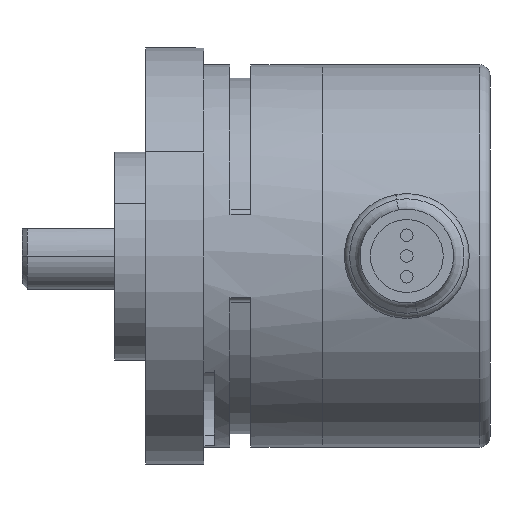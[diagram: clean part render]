
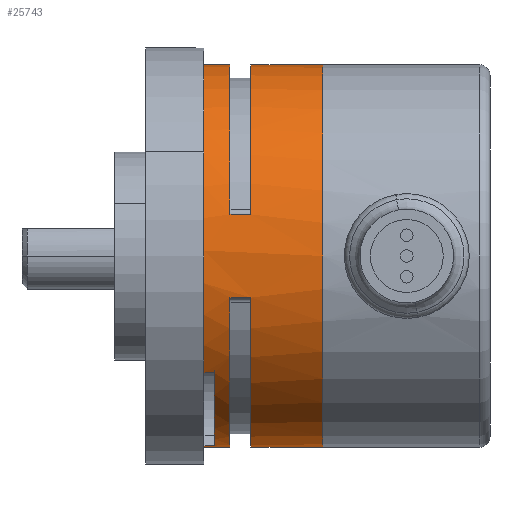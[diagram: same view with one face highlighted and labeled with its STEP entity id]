
A CAD part, front view. The second image highlights one B-rep face of the part: STEP entity #25743.
In plain terms, the highlighted cylindrical face has radius 18.4 mm (diameter 36.8 mm), a partial arc.
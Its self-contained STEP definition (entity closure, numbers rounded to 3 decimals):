
#157 = LINE ( 'NONE', #269, #268 ) ;
#259 = CARTESIAN_POINT ( 'NONE',  ( -35.711, 5.115, -18.4 ) ) ;
#267 = DIRECTION ( 'NONE',  ( -1., 0., 0. ) ) ;
#268 = VECTOR ( 'NONE', #267, 1000. ) ;
#269 = CARTESIAN_POINT ( 'NONE',  ( -52.111, 5.115, -18.4 ) ) ;
#2371 = DIRECTION ( 'NONE',  ( 0., 0., 1. ) ) ;
#2373 = DIRECTION ( 'NONE',  ( -1., 0., 0. ) ) ;
#2375 = CARTESIAN_POINT ( 'NONE',  ( -47.111, 5.115, 0. ) ) ;
#2377 = AXIS2_PLACEMENT_3D ( 'NONE', #2375, #2373, #2371 ) ;
#2379 = CIRCLE ( 'NONE', #2377, 18.4 ) ;
#2398 = CARTESIAN_POINT ( 'NONE',  ( -47.111, -9.456, -11.237 ) ) ;
#2899 = CARTESIAN_POINT ( 'NONE',  ( -47.111, 2.669, -18.237 ) ) ;
#3036 = FACE_OUTER_BOUND ( 'NONE', #25779, .T. ) ;
#3039 = DIRECTION ( 'NONE',  ( -1., 0., 0. ) ) ;
#3040 = VECTOR ( 'NONE', #3039, 1000. ) ;
#3043 = CARTESIAN_POINT ( 'NONE',  ( -46.111, -9.456, -11.237 ) ) ;
#3044 = LINE ( 'NONE', #3043, #3040 ) ;
#3048 = DIRECTION ( 'NONE',  ( 0., 0., 1. ) ) ;
#3049 = DIRECTION ( 'NONE',  ( -1., 0., 0. ) ) ;
#3050 = CARTESIAN_POINT ( 'NONE',  ( -46.111, 5.115, 0. ) ) ;
#3051 = AXIS2_PLACEMENT_3D ( 'NONE', #3050, #3049, #3048 ) ;
#3053 = CIRCLE ( 'NONE', #3051, 18.4 ) ;
#3060 = DIRECTION ( 'NONE',  ( 0., 0., 1. ) ) ;
#3061 = DIRECTION ( 'NONE',  ( -1., 0., 0. ) ) ;
#3062 = CARTESIAN_POINT ( 'NONE',  ( -47.111, 5.115, 0. ) ) ;
#3063 = AXIS2_PLACEMENT_3D ( 'NONE', #3062, #3061, #3060 ) ;
#3065 = CIRCLE ( 'NONE', #3063, 18.4 ) ;
#3080 = DIRECTION ( 'NONE',  ( 0., 0., -1. ) ) ;
#3081 = DIRECTION ( 'NONE',  ( 1., 0., 0. ) ) ;
#3082 = CARTESIAN_POINT ( 'NONE',  ( -44.611, 5.115, 0. ) ) ;
#3083 = AXIS2_PLACEMENT_3D ( 'NONE', #3082, #3081, #3080 ) ;
#3084 = CIRCLE ( 'NONE', #3083, 18.4 ) ;
#3085 = CARTESIAN_POINT ( 'NONE',  ( -35.711, 5.115, 0. ) ) ;
#3087 = CARTESIAN_POINT ( 'NONE',  ( -42.611, -12.845, 4. ) ) ;
#3089 = CARTESIAN_POINT ( 'NONE',  ( -44.611, -12.845, 4. ) ) ;
#3091 = DIRECTION ( 'NONE',  ( 0., 0., -1. ) ) ;
#3093 = DIRECTION ( 'NONE',  ( 1., 0., 0. ) ) ;
#3095 = CARTESIAN_POINT ( 'NONE',  ( -42.611, 5.115, 0. ) ) ;
#3096 = AXIS2_PLACEMENT_3D ( 'NONE', #3095, #3093, #3091 ) ;
#3099 = DIRECTION ( 'NONE',  ( 0., 0., 1. ) ) ;
#3101 = DIRECTION ( 'NONE',  ( -1., 0., 0. ) ) ;
#3103 = AXIS2_PLACEMENT_3D ( 'NONE', #3108, #3101, #3099 ) ;
#3105 = CYLINDRICAL_SURFACE ( 'NONE', #3103, 18.4 ) ;
#3106 = CIRCLE ( 'NONE', #3096, 18.4 ) ;
#3108 = CARTESIAN_POINT ( 'NONE',  ( -52.111, 5.115, 0. ) ) ;
#3153 = DIRECTION ( 'NONE',  ( -1., 0., 0. ) ) ;
#3155 = VECTOR ( 'NONE', #3153, 1000. ) ;
#3157 = CARTESIAN_POINT ( 'NONE',  ( -42.611, -12.845, 4. ) ) ;
#3159 = LINE ( 'NONE', #3157, #3155 ) ;
#3167 = CARTESIAN_POINT ( 'NONE',  ( -46.111, -9.456, -11.237 ) ) ;
#3169 = CARTESIAN_POINT ( 'NONE',  ( -46.111, 2.669, -18.237 ) ) ;
#3171 = DIRECTION ( 'NONE',  ( 0., 0., 1. ) ) ;
#3173 = DIRECTION ( 'NONE',  ( -1., 0., 0. ) ) ;
#3175 = AXIS2_PLACEMENT_3D ( 'NONE', #3085, #3173, #3171 ) ;
#3177 = CIRCLE ( 'NONE', #3175, 18.4 ) ;
#3327 = CARTESIAN_POINT ( 'NONE',  ( -44.611, 5.115, -18.4 ) ) ;
#3838 = CARTESIAN_POINT ( 'NONE',  ( -35.711, 5.115, 18.4 ) ) ;
#3873 = CARTESIAN_POINT ( 'NONE',  ( -47.111, 5.115, -18.4 ) ) ;
#3874 = DIRECTION ( 'NONE',  ( -1., 0., 0. ) ) ;
#3875 = VECTOR ( 'NONE', #3874, 1000. ) ;
#3876 = CARTESIAN_POINT ( 'NONE',  ( -52.111, 5.115, -18.4 ) ) ;
#3877 = LINE ( 'NONE', #3876, #3875 ) ;
#3896 = CARTESIAN_POINT ( 'NONE',  ( -44.611, 5.115, 18.4 ) ) ;
#3897 = DIRECTION ( 'NONE',  ( -1., 0., 0. ) ) ;
#3898 = VECTOR ( 'NONE', #3897, 1000. ) ;
#3899 = CARTESIAN_POINT ( 'NONE',  ( -52.111, 5.115, 18.4 ) ) ;
#3900 = LINE ( 'NONE', #3899, #3898 ) ;
#3901 = CARTESIAN_POINT ( 'NONE',  ( -47.111, 5.115, 18.4 ) ) ;
#4483 = VERTEX_POINT ( 'NONE', #25794 ) ;
#4522 = EDGE_CURVE ( 'NONE', #19576, #4483, #25793, .T. ) ;
#5374 = EDGE_CURVE ( 'NONE', #5379, #22262, #157, .T. ) ;
#5379 = VERTEX_POINT ( 'NONE', #259 ) ;
#9497 = CARTESIAN_POINT ( 'NONE',  ( -44.611, -12.845, -4. ) ) ;
#9498 = DIRECTION ( 'NONE',  ( 0., 0., -1. ) ) ;
#9499 = DIRECTION ( 'NONE',  ( 1., 0., 0. ) ) ;
#9500 = CARTESIAN_POINT ( 'NONE',  ( -44.611, 5.115, 0. ) ) ;
#9501 = AXIS2_PLACEMENT_3D ( 'NONE', #9500, #9499, #9498 ) ;
#9502 = CIRCLE ( 'NONE', #9501, 18.4 ) ;
#9530 = DIRECTION ( 'NONE',  ( -1., 0., 0. ) ) ;
#9531 = VECTOR ( 'NONE', #9530, 1000. ) ;
#9532 = CARTESIAN_POINT ( 'NONE',  ( -46.111, 2.669, -18.237 ) ) ;
#9533 = LINE ( 'NONE', #9532, #9531 ) ;
#13004 = CARTESIAN_POINT ( 'NONE',  ( -42.611, 5.115, -18.4 ) ) ;
#18985 = DIRECTION ( 'NONE',  ( 0., 0., -1. ) ) ;
#18986 = DIRECTION ( 'NONE',  ( 1., 0., 0. ) ) ;
#18987 = AXIS2_PLACEMENT_3D ( 'NONE', #18999, #18986, #18985 ) ;
#18996 = CIRCLE ( 'NONE', #18987, 18.4 ) ;
#18999 = CARTESIAN_POINT ( 'NONE',  ( -42.611, 5.115, 0. ) ) ;
#19362 = VERTEX_POINT ( 'NONE', #3327 ) ;
#19576 = VERTEX_POINT ( 'NONE', #3838 ) ;
#19583 = EDGE_CURVE ( 'NONE', #19362, #19584, #3877, .T. ) ;
#19584 = VERTEX_POINT ( 'NONE', #3873 ) ;
#19598 = VERTEX_POINT ( 'NONE', #3901 ) ;
#19600 = EDGE_CURVE ( 'NONE', #19601, #19598, #3900, .T. ) ;
#19601 = VERTEX_POINT ( 'NONE', #3896 ) ;
#21297 = ORIENTED_EDGE ( 'NONE', *, *, #21298, .F. ) ;
#21298 = EDGE_CURVE ( 'NONE', #21299, #19362, #9502, .T. ) ;
#21299 = VERTEX_POINT ( 'NONE', #9497 ) ;
#21302 = EDGE_CURVE ( 'NONE', #25766, #25679, #9533, .T. ) ;
#21303 = ORIENTED_EDGE ( 'NONE', *, *, #25712, .F. ) ;
#21305 = ORIENTED_EDGE ( 'NONE', *, *, #19583, .F. ) ;
#22262 = VERTEX_POINT ( 'NONE', #13004 ) ;
#23865 = EDGE_CURVE ( 'NONE', #24341, #22262, #18996, .T. ) ;
#24336 = ORIENTED_EDGE ( 'NONE', *, *, #24340, .F. ) ;
#24338 = ORIENTED_EDGE ( 'NONE', *, *, #23865, .T. ) ;
#24340 = EDGE_CURVE ( 'NONE', #24341, #21299, #24701, .T. ) ;
#24341 = VERTEX_POINT ( 'NONE', #24694 ) ;
#24694 = CARTESIAN_POINT ( 'NONE',  ( -42.611, -12.845, -4. ) ) ;
#24696 = DIRECTION ( 'NONE',  ( -1., 0., 0. ) ) ;
#24697 = VECTOR ( 'NONE', #24696, 1000. ) ;
#24699 = CARTESIAN_POINT ( 'NONE',  ( -42.611, -12.845, -4. ) ) ;
#24701 = LINE ( 'NONE', #24699, #24697 ) ;
#25508 = EDGE_CURVE ( 'NONE', #25546, #19598, #2379, .T. ) ;
#25546 = VERTEX_POINT ( 'NONE', #2398 ) ;
#25679 = VERTEX_POINT ( 'NONE', #2899 ) ;
#25712 = EDGE_CURVE ( 'NONE', #19584, #25679, #3065, .T. ) ;
#25737 = EDGE_CURVE ( 'NONE', #25766, #25771, #3053, .T. ) ;
#25739 = EDGE_CURVE ( 'NONE', #25771, #25546, #3044, .T. ) ;
#25740 = ORIENTED_EDGE ( 'NONE', *, *, #25774, .T. ) ;
#25743 = ADVANCED_FACE ( 'NONE', ( #3036 ), #3105, .T. ) ;
#25745 = EDGE_CURVE ( 'NONE', #4483, #25754, #3106, .T. ) ;
#25748 = ORIENTED_EDGE ( 'NONE', *, *, #4522, .T. ) ;
#25751 = VERTEX_POINT ( 'NONE', #3089 ) ;
#25754 = VERTEX_POINT ( 'NONE', #3087 ) ;
#25756 = ORIENTED_EDGE ( 'NONE', *, *, #25760, .T. ) ;
#25758 = EDGE_CURVE ( 'NONE', #19601, #25751, #3084, .T. ) ;
#25760 = EDGE_CURVE ( 'NONE', #5379, #19576, #3177, .T. ) ;
#25762 = ORIENTED_EDGE ( 'NONE', *, *, #21302, .T. ) ;
#25765 = ORIENTED_EDGE ( 'NONE', *, *, #19600, .T. ) ;
#25766 = VERTEX_POINT ( 'NONE', #3169 ) ;
#25768 = ORIENTED_EDGE ( 'NONE', *, *, #25739, .F. ) ;
#25769 = ORIENTED_EDGE ( 'NONE', *, *, #25508, .F. ) ;
#25770 = ORIENTED_EDGE ( 'NONE', *, *, #5374, .F. ) ;
#25771 = VERTEX_POINT ( 'NONE', #3167 ) ;
#25774 = EDGE_CURVE ( 'NONE', #25754, #25751, #3159, .T. ) ;
#25776 = ORIENTED_EDGE ( 'NONE', *, *, #25758, .F. ) ;
#25779 = EDGE_LOOP ( 'NONE', ( #25770, #25756, #25748, #25782, #25740, #25776, #25765, #25769, #25768, #25780, #25762, #21303, #21305, #21297, #24336, #24338 ) ) ;
#25780 = ORIENTED_EDGE ( 'NONE', *, *, #25737, .F. ) ;
#25782 = ORIENTED_EDGE ( 'NONE', *, *, #25745, .T. ) ;
#25790 = DIRECTION ( 'NONE',  ( -1., 0., 0. ) ) ;
#25791 = VECTOR ( 'NONE', #25790, 1000. ) ;
#25792 = CARTESIAN_POINT ( 'NONE',  ( -52.111, 5.115, 18.4 ) ) ;
#25793 = LINE ( 'NONE', #25792, #25791 ) ;
#25794 = CARTESIAN_POINT ( 'NONE',  ( -42.611, 5.115, 18.4 ) ) ;
